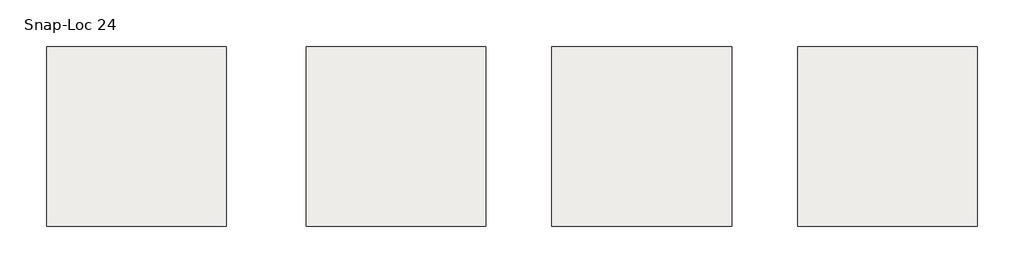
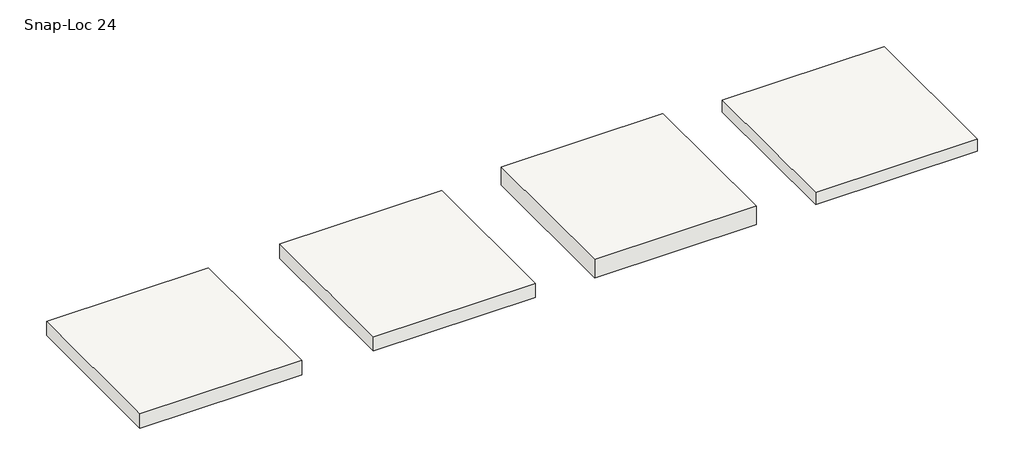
# One storey: 4 roofs.
"""IFC4 building model written with IfcOpenShell, lengths in millimetres."""

from ifc_helpers import new_model, si_unit, frame, origin, place, context, project, spatial, polyline, outline, extrude, element, save

model = new_model("IFC4")

# Units and contexts
model_context = context("Model", 3, world=origin())
ifc_project = project(units=[si_unit("LENGTHUNIT", "METRE", prefix="MILLI")], contexts=[model_context])

# Site, building, storey
site = spatial("IfcSite", under=ifc_project)
building = spatial("IfcBuilding", under=site)
storey = spatial("IfcBuildingStorey", under=building, Name="Snap-Loc 24", Elevation=4572.0)

# Roofs
placement = place(None, origin())
element("IfcRoof", 1, ObjectType="Snap-Loc 24 - Solid Substrate", at=placement, inside=storey, context=model_context, shape_type="SweptSolid", body=[
    extrude(outline(polyline([(17322.4091677, 19652.5817436), (20370.4091677, 19652.5817436), (20370.4091677, 16604.5817436), (17322.4091677, 16604.5817436), (17322.4091677, 19652.5817436)])), frame((0.0, 0.0, 4572.0), z_axis=(0.0, 0.0, 1.0), x_axis=(1.0, 0.0, 0.0)), (0.0, 0.0, 1.0), 282.575),
])
element("IfcRoof", 2, ObjectType="Snap-Loc 24 - Steel Deck", at=placement, inside=storey, context=model_context, shape_type="SweptSolid", body=[
    extrude(outline(polyline([(30051.4341006, 19652.5817436), (33099.4341006, 19652.5817436), (33099.4341006, 16604.5817436), (30051.4341006, 16604.5817436), (30051.4341006, 19652.5817436)])), frame((0.0, 0.0, 4572.0), z_axis=(0.0, 0.0, 1.0), x_axis=(1.0, 0.0, 0.0)), (0.0, 0.0, 1.0), 238.125),
])
element("IfcRoof", 3, ObjectType="Snap-Loc 24 - Steel Framing", at=placement, inside=storey, context=model_context, shape_type="SweptSolid", body=[
    extrude(outline(polyline([(25885.8341006, 19652.5817436), (28933.8341006, 19652.5817436), (28933.8341006, 16604.5817436), (25885.8341006, 16604.5817436), (25885.8341006, 19652.5817436)])), frame((0.0, 0.0, 4572.0), z_axis=(0.0, 0.0, 1.0), x_axis=(1.0, 0.0, 0.0)), (0.0, 0.0, 1.0), 361.95),
])
element("IfcRoof", 4, ObjectType="Snap-Loc 24 - Wood Framing", at=placement, inside=storey, context=model_context, shape_type="SweptSolid", body=[
    extrude(outline(polyline([(21720.2341006, 19652.5817436), (24768.2341006, 19652.5817436), (24768.2341006, 16604.5817436), (21720.2341006, 16604.5817436), (21720.2341006, 19652.5817436)])), frame((0.0, 0.0, 4572.0), z_axis=(0.0, 0.0, 1.0), x_axis=(1.0, 0.0, 0.0)), (0.0, 0.0, 1.0), 282.575),
])

save(model, "model.ifc")
